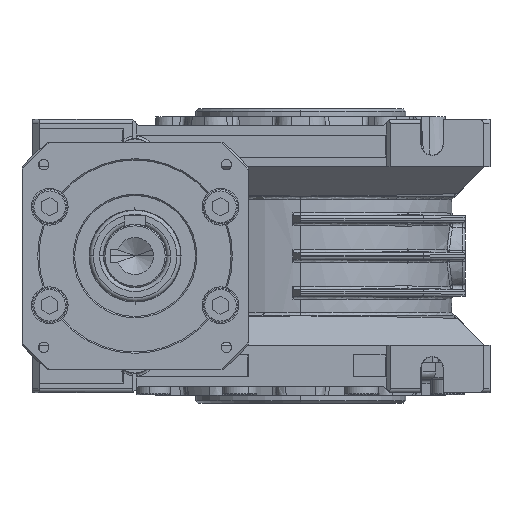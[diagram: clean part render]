
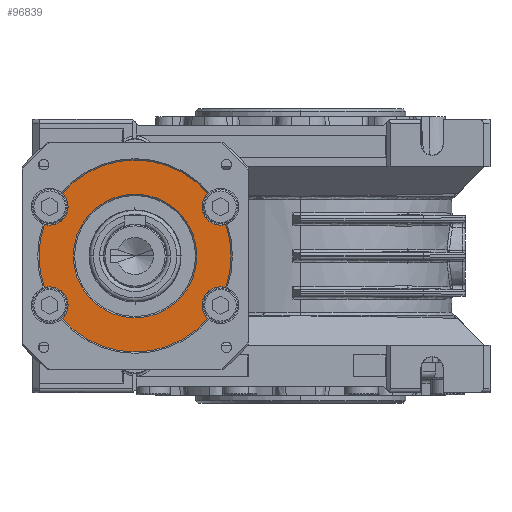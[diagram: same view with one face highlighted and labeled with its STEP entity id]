
A CAD part, left-side view. The second image highlights one B-rep face of the part: STEP entity #96839.
In plain terms, the highlighted planar face has unit normal (-1, 0, 0).
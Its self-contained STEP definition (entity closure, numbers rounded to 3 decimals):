
#59 = DIRECTION ( 'NONE',  ( 1., 0., 0. ) ) ;
#562 = ORIENTED_EDGE ( 'NONE', *, *, #1972, .T. ) ;
#1486 = DIRECTION ( 'NONE',  ( 1., 0., 0. ) ) ;
#1972 = EDGE_CURVE ( 'NONE', #67768, #28018, #79374, .T. ) ;
#2618 = EDGE_CURVE ( 'NONE', #78627, #32274, #102462, .T. ) ;
#3266 = EDGE_CURVE ( 'NONE', #28018, #22218, #37709, .T. ) ;
#3559 = ORIENTED_EDGE ( 'NONE', *, *, #39549, .T. ) ;
#4436 = CIRCLE ( 'NONE', #18094, 7. ) ;
#4598 = VERTEX_POINT ( 'NONE', #74948 ) ;
#5348 = AXIS2_PLACEMENT_3D ( 'NONE', #8719, #75186, #67222 ) ;
#5889 = ORIENTED_EDGE ( 'NONE', *, *, #13159, .T. ) ;
#6073 = CARTESIAN_POINT ( 'NONE',  ( 3., 32.476, -18.75 ) ) ;
#6112 = VERTEX_POINT ( 'NONE', #31407 ) ;
#7616 = DIRECTION ( 'NONE',  ( -1., 0., 0. ) ) ;
#8055 = DIRECTION ( 'NONE',  ( 0., 0., -1. ) ) ;
#8464 = EDGE_CURVE ( 'NONE', #54403, #6112, #96076, .T. ) ;
#8719 = CARTESIAN_POINT ( 'NONE',  ( 3., 0., 0. ) ) ;
#9308 = EDGE_CURVE ( 'NONE', #87226, #67768, #4436, .T. ) ;
#9536 = CARTESIAN_POINT ( 'NONE',  ( 3., 0., 0. ) ) ;
#9613 = DIRECTION ( 'NONE',  ( 0., 0., -1. ) ) ;
#10057 = AXIS2_PLACEMENT_3D ( 'NONE', #103664, #63780, #46310 ) ;
#11719 = DIRECTION ( 'NONE',  ( 0., 0., -1. ) ) ;
#11858 = CARTESIAN_POINT ( 'NONE',  ( 3., -32.476, 18.75 ) ) ;
#12054 = DIRECTION ( 'NONE',  ( 0., 0., -1. ) ) ;
#13159 = EDGE_CURVE ( 'NONE', #60743, #66990, #55979, .T. ) ;
#13590 = CARTESIAN_POINT ( 'NONE',  ( 3., -34.47, 12.04 ) ) ;
#17857 = AXIS2_PLACEMENT_3D ( 'NONE', #39509, #59, #8055 ) ;
#18094 = AXIS2_PLACEMENT_3D ( 'NONE', #35192, #97912, #9613 ) ;
#21749 = ORIENTED_EDGE ( 'NONE', *, *, #87895, .F. ) ;
#22218 = VERTEX_POINT ( 'NONE', #13590 ) ;
#22275 = CARTESIAN_POINT ( 'NONE',  ( 3., 0., 0. ) ) ;
#22516 = PLANE ( 'NONE',  #17857 ) ;
#23613 = DIRECTION ( 'NONE',  ( 0., 0., 1. ) ) ;
#24066 = CARTESIAN_POINT ( 'NONE',  ( 3., 27.662, 23.832 ) ) ;
#24417 = AXIS2_PLACEMENT_3D ( 'NONE', #22275, #26741, #60175 ) ;
#24874 = ORIENTED_EDGE ( 'NONE', *, *, #62377, .F. ) ;
#25053 = CIRCLE ( 'NONE', #47148, 23.5 ) ;
#25129 = CARTESIAN_POINT ( 'NONE',  ( 3., 0., -23.5 ) ) ;
#25199 = CIRCLE ( 'NONE', #37062, 7. ) ;
#26576 = CARTESIAN_POINT ( 'NONE',  ( 3., 32.476, 18.75 ) ) ;
#26650 = EDGE_CURVE ( 'NONE', #66990, #98970, #33409, .T. ) ;
#26741 = DIRECTION ( 'NONE',  ( 1., 0., 0. ) ) ;
#27988 = CARTESIAN_POINT ( 'NONE',  ( 3., -32.476, -11.75 ) ) ;
#28018 = VERTEX_POINT ( 'NONE', #40020 ) ;
#29557 = DIRECTION ( 'NONE',  ( 0., 0., -1. ) ) ;
#29602 = VERTEX_POINT ( 'NONE', #44287 ) ;
#30599 = CARTESIAN_POINT ( 'NONE',  ( 3., 0., 0. ) ) ;
#30962 = DIRECTION ( 'NONE',  ( 0., 0., -1. ) ) ;
#31407 = CARTESIAN_POINT ( 'NONE',  ( 3., 34.47, 12.04 ) ) ;
#31538 = FACE_BOUND ( 'NONE', #61527, .T. ) ;
#31669 = CIRCLE ( 'NONE', #58827, 7. ) ;
#32274 = VERTEX_POINT ( 'NONE', #92948 ) ;
#33409 = CIRCLE ( 'NONE', #40178, 36.513 ) ;
#33585 = AXIS2_PLACEMENT_3D ( 'NONE', #94377, #35997, #100794 ) ;
#33972 = CIRCLE ( 'NONE', #98457, 7. ) ;
#35192 = CARTESIAN_POINT ( 'NONE',  ( 3., -32.476, -18.75 ) ) ;
#35323 = DIRECTION ( 'NONE',  ( 0., 0., -1. ) ) ;
#35997 = DIRECTION ( 'NONE',  ( 1., 0., 0. ) ) ;
#37062 = AXIS2_PLACEMENT_3D ( 'NONE', #77073, #85075, #11719 ) ;
#37709 = CIRCLE ( 'NONE', #5348, 36.513 ) ;
#39302 = ORIENTED_EDGE ( 'NONE', *, *, #62047, .F. ) ;
#39509 = CARTESIAN_POINT ( 'NONE',  ( 3., 23., 0. ) ) ;
#39549 = EDGE_CURVE ( 'NONE', #6112, #29602, #102531, .T. ) ;
#40020 = CARTESIAN_POINT ( 'NONE',  ( 3., -34.47, -12.04 ) ) ;
#40167 = DIRECTION ( 'NONE',  ( -1., 0., 0. ) ) ;
#40178 = AXIS2_PLACEMENT_3D ( 'NONE', #9536, #63964, #23613 ) ;
#41643 = CIRCLE ( 'NONE', #46744, 7. ) ;
#42247 = DIRECTION ( 'NONE',  ( -1., 0., 0. ) ) ;
#42484 = CIRCLE ( 'NONE', #101874, 36.513 ) ;
#42549 = ORIENTED_EDGE ( 'NONE', *, *, #8464, .T. ) ;
#44287 = CARTESIAN_POINT ( 'NONE',  ( 3., 34.47, -12.04 ) ) ;
#46177 = ORIENTED_EDGE ( 'NONE', *, *, #104829, .F. ) ;
#46310 = DIRECTION ( 'NONE',  ( 0., 0., 1. ) ) ;
#46744 = AXIS2_PLACEMENT_3D ( 'NONE', #57610, #49120, #66059 ) ;
#47148 = AXIS2_PLACEMENT_3D ( 'NONE', #79287, #62850, #30962 ) ;
#48725 = EDGE_LOOP ( 'NONE', ( #82909, #102396, #562, #90891, #24874, #46177, #5889, #58996, #92506, #42549, #3559, #21749, #39302 ) ) ;
#49111 = CARTESIAN_POINT ( 'NONE',  ( 3., -32.476, 11.75 ) ) ;
#49120 = DIRECTION ( 'NONE',  ( -1., 0., 0. ) ) ;
#52031 = CARTESIAN_POINT ( 'NONE',  ( 3., 32.476, 18.75 ) ) ;
#52530 = CARTESIAN_POINT ( 'NONE',  ( 3., 0., 36.513 ) ) ;
#54403 = VERTEX_POINT ( 'NONE', #104671 ) ;
#55979 = CIRCLE ( 'NONE', #10057, 36.513 ) ;
#57610 = CARTESIAN_POINT ( 'NONE',  ( 3., -32.476, 18.75 ) ) ;
#58827 = AXIS2_PLACEMENT_3D ( 'NONE', #11858, #42247, #35323 ) ;
#58996 = ORIENTED_EDGE ( 'NONE', *, *, #26650, .T. ) ;
#60175 = DIRECTION ( 'NONE',  ( 0., 0., -1. ) ) ;
#60569 = AXIS2_PLACEMENT_3D ( 'NONE', #6073, #95397, #29557 ) ;
#60743 = VERTEX_POINT ( 'NONE', #66395 ) ;
#61527 = EDGE_LOOP ( 'NONE', ( #82038, #101626 ) ) ;
#62047 = EDGE_CURVE ( 'NONE', #94469, #4598, #70702, .T. ) ;
#62377 = EDGE_CURVE ( 'NONE', #103740, #22218, #31669, .T. ) ;
#62850 = DIRECTION ( 'NONE',  ( 1., 0., 0. ) ) ;
#63459 = AXIS2_PLACEMENT_3D ( 'NONE', #79463, #40167, #64572 ) ;
#63780 = DIRECTION ( 'NONE',  ( -1., 0., 0. ) ) ;
#63964 = DIRECTION ( 'NONE',  ( -1., 0., 0. ) ) ;
#64572 = DIRECTION ( 'NONE',  ( 0., 0., 1. ) ) ;
#65845 = DIRECTION ( 'NONE',  ( 0., 0., -1. ) ) ;
#66059 = DIRECTION ( 'NONE',  ( 0., 0., -1. ) ) ;
#66234 = CARTESIAN_POINT ( 'NONE',  ( 3., -27.662, -23.832 ) ) ;
#66395 = CARTESIAN_POINT ( 'NONE',  ( 3., -27.662, 23.832 ) ) ;
#66990 = VERTEX_POINT ( 'NONE', #52530 ) ;
#67222 = DIRECTION ( 'NONE',  ( 0., 0., 1. ) ) ;
#67768 = VERTEX_POINT ( 'NONE', #27988 ) ;
#67811 = EDGE_CURVE ( 'NONE', #94469, #87226, #42484, .T. ) ;
#70514 = DIRECTION ( 'NONE',  ( 1., 0., 0. ) ) ;
#70702 = CIRCLE ( 'NONE', #60569, 7. ) ;
#71385 = FACE_OUTER_BOUND ( 'NONE', #48725, .T. ) ;
#74948 = CARTESIAN_POINT ( 'NONE',  ( 3., 32.476, -11.75 ) ) ;
#75186 = DIRECTION ( 'NONE',  ( -1., 0., 0. ) ) ;
#77073 = CARTESIAN_POINT ( 'NONE',  ( 3., 32.476, -18.75 ) ) ;
#77296 = AXIS2_PLACEMENT_3D ( 'NONE', #26576, #1486, #65845 ) ;
#78627 = VERTEX_POINT ( 'NONE', #25129 ) ;
#79287 = CARTESIAN_POINT ( 'NONE',  ( 3., 0., 0. ) ) ;
#79374 = CIRCLE ( 'NONE', #33585, 7. ) ;
#79463 = CARTESIAN_POINT ( 'NONE',  ( 3., 0., 0. ) ) ;
#82038 = ORIENTED_EDGE ( 'NONE', *, *, #86795, .T. ) ;
#82909 = ORIENTED_EDGE ( 'NONE', *, *, #67811, .T. ) ;
#85075 = DIRECTION ( 'NONE',  ( -1., 0., 0. ) ) ;
#85259 = EDGE_CURVE ( 'NONE', #98970, #54403, #33972, .T. ) ;
#85326 = CARTESIAN_POINT ( 'NONE',  ( 3., 27.662, -23.832 ) ) ;
#86795 = EDGE_CURVE ( 'NONE', #32274, #78627, #25053, .T. ) ;
#87226 = VERTEX_POINT ( 'NONE', #66234 ) ;
#87895 = EDGE_CURVE ( 'NONE', #4598, #29602, #25199, .T. ) ;
#90891 = ORIENTED_EDGE ( 'NONE', *, *, #3266, .T. ) ;
#92506 = ORIENTED_EDGE ( 'NONE', *, *, #85259, .T. ) ;
#92948 = CARTESIAN_POINT ( 'NONE',  ( 3., 0., 23.5 ) ) ;
#94377 = CARTESIAN_POINT ( 'NONE',  ( 3., -32.476, -18.75 ) ) ;
#94469 = VERTEX_POINT ( 'NONE', #85326 ) ;
#95397 = DIRECTION ( 'NONE',  ( -1., 0., 0. ) ) ;
#96076 = CIRCLE ( 'NONE', #77296, 7. ) ;
#96839 = ADVANCED_FACE ( 'NONE', ( #31538, #71385 ), #22516, .F. ) ;
#97912 = DIRECTION ( 'NONE',  ( 1., 0., 0. ) ) ;
#98457 = AXIS2_PLACEMENT_3D ( 'NONE', #52031, #70514, #12054 ) ;
#98970 = VERTEX_POINT ( 'NONE', #24066 ) ;
#100794 = DIRECTION ( 'NONE',  ( 0., 0., -1. ) ) ;
#101626 = ORIENTED_EDGE ( 'NONE', *, *, #2618, .T. ) ;
#101874 = AXIS2_PLACEMENT_3D ( 'NONE', #30599, #7616, #104415 ) ;
#102396 = ORIENTED_EDGE ( 'NONE', *, *, #9308, .T. ) ;
#102462 = CIRCLE ( 'NONE', #24417, 23.5 ) ;
#102531 = CIRCLE ( 'NONE', #63459, 36.513 ) ;
#103664 = CARTESIAN_POINT ( 'NONE',  ( 3., 0., 0. ) ) ;
#103740 = VERTEX_POINT ( 'NONE', #49111 ) ;
#104415 = DIRECTION ( 'NONE',  ( 0., 0., 1. ) ) ;
#104671 = CARTESIAN_POINT ( 'NONE',  ( 3., 32.476, 11.75 ) ) ;
#104829 = EDGE_CURVE ( 'NONE', #60743, #103740, #41643, .T. ) ;
